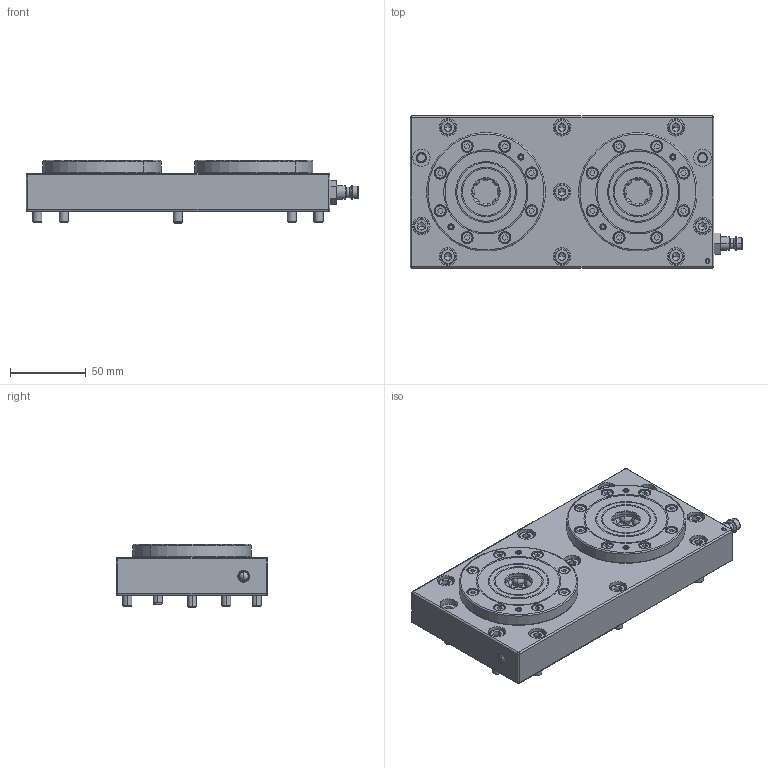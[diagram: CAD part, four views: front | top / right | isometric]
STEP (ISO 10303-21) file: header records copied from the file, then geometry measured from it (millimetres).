
FILE_DESCRIPTION (( 'STEP AP214' ), '1' );
FILE_NAME ('Q2GWB-5.STEP', '2021-11-25T07:14:04', ( '' ), ( '' ), 'SwSTEP 2.0', 'SolidWorks 2018', '' );
FILE_SCHEMA (( 'AUTOMOTIVE_DESIGN' ));
Length unit declared in the file: millimetre
Products named in the file (1): Q2GWB-5
Bounding box: 218.5 x 100 x 41.5 mm (x, y, z)
Volume: 549576.3 mm3; surface area: 138652 mm2
Topology: 39 solids, 47 shells, 1721 faces, 3992 edges, 2461 vertices
Faces by surface type: plane 615, cylinder 478, cone 292, torus 230, sphere 74, bspline 32
Entity records: 74449 total; most frequent: CARTESIAN_POINT 15633, DIRECTION 8764, ORIENTED_EDGE 7764, EDGE_CURVE 3882, AXIS2_PLACEMENT_3D 3508, VERTEX_POINT 2445, EDGE_LOOP 2009, CIRCLE 1818
